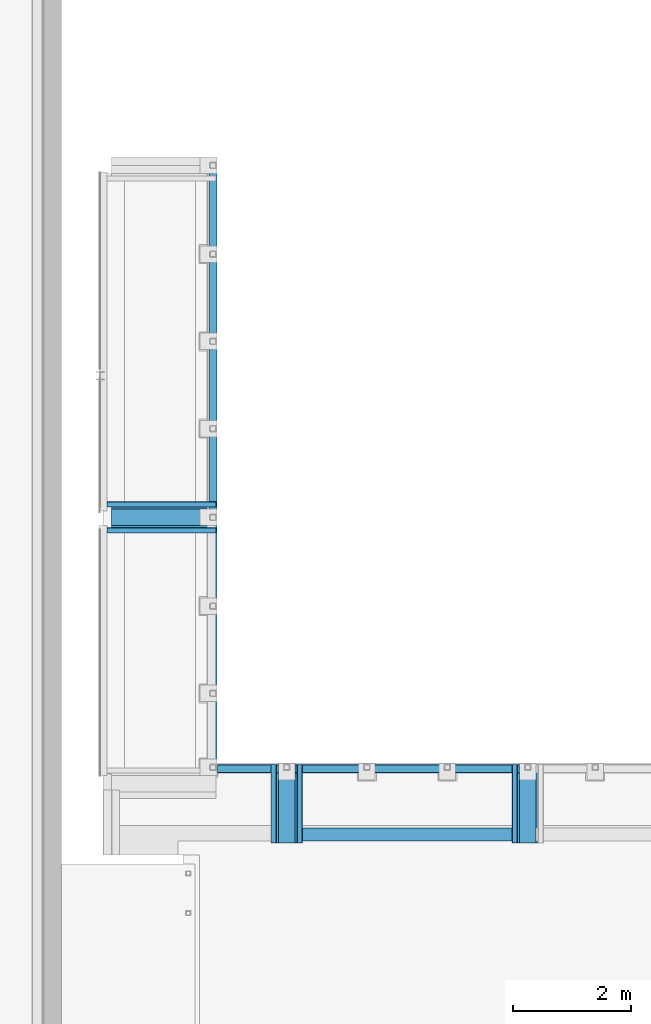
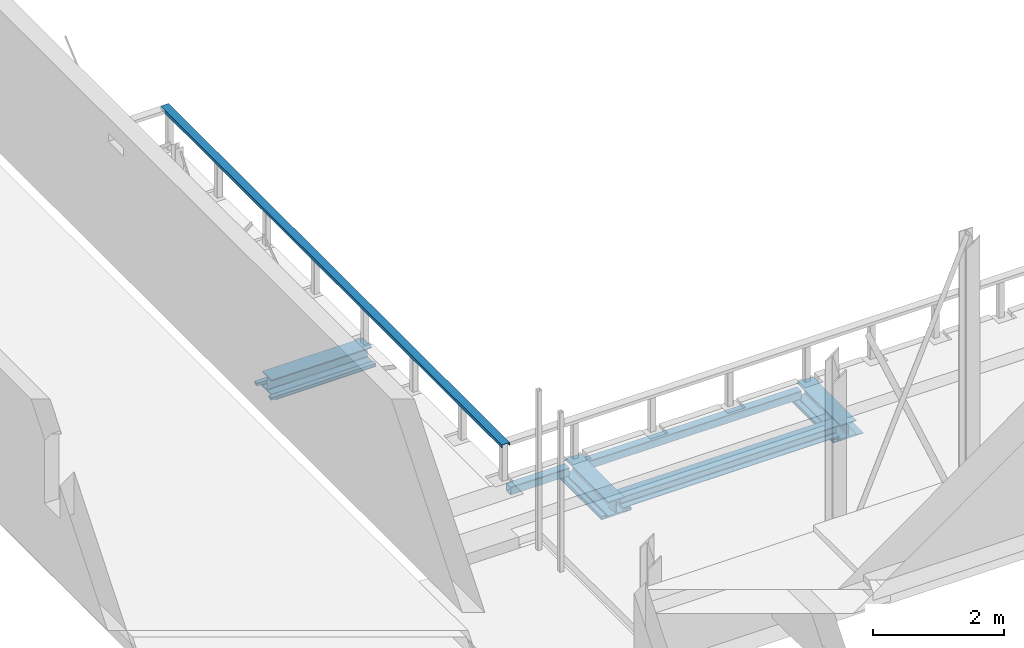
# One storey, part 15 of 68: 12 beams.
"""IFC2X3 building model written with IfcOpenShell, lengths in millimetres."""

from ifc_helpers import new_model, entity, si_unit, converted_unit, derived_unit, direction, frame, frame_2d, origin, origin_2d_with_axis, place, context, subcontext, project, spatial, polyline, circle_curve, parameter, trimmed, segment, composite_curve, rectangle, i_section, outline, extrude, source, transform, mapped, material, material_list, type_object, type_shapes, element, save


model = new_model("IFC2X3")

# Units and contexts
model_context = context("Model", 3, precision=0.01, world=origin(), true_north=direction((6.12303176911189e-17, 1.0)))
body_context = subcontext(model_context, "Body", "Model", "MODEL_VIEW")
ifc_project = project(units=[si_unit("LENGTHUNIT", "METRE", prefix="MILLI"), si_unit("AREAUNIT", "SQUARE_METRE", prefix="MILLI"), si_unit("VOLUMEUNIT", "CUBIC_METRE"), converted_unit("PLANEANGLEUNIT", "DEGREE", entity("IfcRatioMeasure", 0.0174532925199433), si_unit("PLANEANGLEUNIT", "RADIAN"), dimensions=[0, 0, 0, 0, 0, 0, 0]), si_unit("MASSUNIT", "GRAM", prefix="KILO"), derived_unit("MASSDENSITYUNIT", [(si_unit("MASSUNIT", "GRAM", prefix="KILO"), 1), (si_unit("LENGTHUNIT", "METRE"), -3)]), derived_unit("MOMENTOFINERTIAUNIT", [(si_unit("LENGTHUNIT", "METRE"), 4)]), si_unit("TIMEUNIT", "SECOND"), si_unit("FREQUENCYUNIT", "HERTZ"), si_unit("THERMODYNAMICTEMPERATUREUNIT", "DEGREE_CELSIUS"), derived_unit("THERMALTRANSMITTANCEUNIT", [(si_unit("MASSUNIT", "GRAM", prefix="KILO"), 1), (si_unit("THERMODYNAMICTEMPERATUREUNIT", "KELVIN"), -1), (si_unit("TIMEUNIT", "SECOND"), -3)]), derived_unit("VOLUMETRICFLOWRATEUNIT", [(si_unit("LENGTHUNIT", "METRE"), 3), (si_unit("TIMEUNIT", "SECOND"), -1)]), si_unit("ELECTRICCURRENTUNIT", "AMPERE"), si_unit("ELECTRICVOLTAGEUNIT", "VOLT"), si_unit("POWERUNIT", "WATT"), si_unit("FORCEUNIT", "NEWTON", prefix="KILO"), si_unit("ILLUMINANCEUNIT", "LUX"), si_unit("LUMINOUSFLUXUNIT", "LUMEN"), si_unit("LUMINOUSINTENSITYUNIT", "CANDELA"), derived_unit("USERDEFINED", [(si_unit("MASSUNIT", "GRAM", prefix="KILO"), -1), (si_unit("LENGTHUNIT", "METRE"), -2), (si_unit("TIMEUNIT", "SECOND"), 3), (si_unit("LUMINOUSFLUXUNIT", "LUMEN"), 1)]), derived_unit("LINEARVELOCITYUNIT", [(si_unit("LENGTHUNIT", "METRE"), 1), (si_unit("TIMEUNIT", "SECOND"), -1)]), si_unit("PRESSUREUNIT", "PASCAL"), derived_unit("USERDEFINED", [(si_unit("LENGTHUNIT", "METRE"), -2), (si_unit("MASSUNIT", "GRAM", prefix="KILO"), 1), (si_unit("TIMEUNIT", "SECOND"), -2)]), derived_unit("LINEARFORCEUNIT", [(si_unit("MASSUNIT", "GRAM", prefix="KILO"), 1), (si_unit("LENGTHUNIT", "METRE"), 1), (si_unit("TIMEUNIT", "SECOND"), -2), (si_unit("LENGTHUNIT", "METRE"), -1)]), derived_unit("PLANARFORCEUNIT", [(si_unit("MASSUNIT", "GRAM", prefix="KILO"), 1), (si_unit("LENGTHUNIT", "METRE"), 1), (si_unit("TIMEUNIT", "SECOND"), -2), (si_unit("LENGTHUNIT", "METRE"), -2)])], contexts=[model_context])

# Site, building, storey
site_placement = place(None, origin())
site = spatial("IfcSite", under=ifc_project, at=site_placement, Name="Theater aan de Parade", CompositionType="ELEMENT")
building_placement = place(site_placement, origin())
building = spatial("IfcBuilding", under=site, at=building_placement, Name="Theater aan de Parade", CompositionType="ELEMENT")
storey_placement = place(building_placement, frame((0.0, 0.0, 8750.0)))
storey = spatial("IfcBuildingStorey", under=building, at=storey_placement, Name="02 tweede verdieping", CompositionType="ELEMENT", Elevation=8750.0)

# Beams
ifc_material_1 = material(Name="00_PBT_MAT_staal_S355")
ifc_material_2 = material(Name="00_PBT_MAT_Lucht")
ifc_material_list_1 = material_list([ifc_material_1, ifc_material_2])
beam_type_1 = type_object("IfcBeamType", Name="28_PBT_SF_staal_H-profiel_met_onderplaat (void):S355_HE280B + onderplaat d=12", PredefinedType="BEAM", material=ifc_material_list_1)
shared_shape_1 = source(origin(), body_context, "Body", "SweptSolid", [
    extrude(rectangle(XDim=12.0, YDim=530.0, at=frame_2d((0.0, -2.8421709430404e-14), x_axis=(1.0, 0.0))), frame((-858.5, 0.0, -146.0), z_axis=(1.0, 0.0, 0.0), x_axis=(0.0, 0.0, -1.0)), (0.0, 0.0, 1.0), 1766.99999999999),
    extrude(i_section(OverallWidth=280.0, OverallDepth=280.0, WebThickness=10.5, FlangeThickness=17.9999999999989, FilletRadius=24.0, at=frame_2d((-3.97903932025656e-13, 0.0), x_axis=(0.0, 1.0))), frame((-858.5, 0.0, 0.0), z_axis=(1.0, 0.0, 0.0), x_axis=(0.0, 0.0, -1.0)), (0.0, 0.0, 1.0), 1766.99999999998),
])
type_shapes(beam_type_1, [shared_shape_1])
beam_1_placement = place(storey_placement, frame((17052.3570032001, 23568.2922985, -210.0)))
element("IfcBeam", 1, at=beam_1_placement, inside=storey, type_object=beam_type_1, material=ifc_material_1, Name="28_PBT_SF_staal_H-profiel_met_onderplaat (void):S355_HE280B + onderplaat d=12", ObjectType="28_PBT_SF_staal_H-profiel_met_onderplaat (void):S355_HE280B + onderplaat d=12", context=body_context, shape_type="MappedRepresentation", body=[
    mapped(shared_shape_1, transform((0.0, 0.0, 0.0), scale=1.0)),
])
ifc_material_list_2 = material_list([ifc_material_2, ifc_material_1])
beam_type_2 = type_object("IfcBeamType", Name="28_PBT_SF_staal_H-profiel_met_onderplaat (void):S355_HE280B + onderplaat d=12", PredefinedType="BEAM", material=ifc_material_list_2)
shared_shape_2 = source(origin(), body_context, "Body", "SweptSolid", [
    extrude(rectangle(XDim=12.0, YDim=530.0, at=origin_2d_with_axis()), frame((-663.501290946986, 0.0, -146.0), z_axis=(1.0, 0.0, 0.0), x_axis=(0.0, 0.0, -1.0)), (0.0, 0.0, 1.0), 1327.00258189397),
    extrude(outline(composite_curve([segment(polyline([(122.0, -140.0), (140.0, -140.0)]), True, "CONTINUOUS"), segment(polyline([(140.0, -140.0), (140.0, 140.0)]), True, "CONTINUOUS"), segment(polyline([(140.0, 140.0), (122.0, 140.0)]), True, "CONTINUOUS"), segment(polyline([(122.0, 140.0), (122.0, 29.25)]), True, "CONTINUOUS"), segment(trimmed(circle_curve(frame_2d((98.0, 29.25), x_axis=(1.0, 0.0)), 24.0), [parameter(270.0)], [parameter(0.0)], True, "PARAMETER"), False, "CONTINUOUS"), segment(polyline([(98.0, 5.24999999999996), (-98.0, 5.24999999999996)]), True, "CONTINUOUS"), segment(trimmed(circle_curve(frame_2d((-98.0, 29.25), x_axis=(0.0, -1.0)), 24.0), [parameter(270.0)], [parameter(0.0)], True, "PARAMETER"), False, "CONTINUOUS"), segment(polyline([(-122.0, 29.25), (-122.0, 140.0)]), True, "CONTINUOUS"), segment(polyline([(-122.0, 140.0), (-140.0, 140.0)]), True, "CONTINUOUS"), segment(polyline([(-140.0, 140.0), (-140.0, -140.0)]), True, "CONTINUOUS"), segment(polyline([(-140.0, -140.0), (-122.0, -140.0)]), True, "CONTINUOUS"), segment(polyline([(-122.0, -140.0), (-122.0, -29.25)]), True, "CONTINUOUS"), segment(trimmed(circle_curve(frame_2d((-98.0, -29.25), x_axis=(-1.0, 0.0)), 24.0), [parameter(270.0)], [parameter(0.0)], True, "PARAMETER"), False, "CONTINUOUS"), segment(polyline([(-98.0, -5.25000000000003), (98.0, -5.25000000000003)]), True, "CONTINUOUS"), segment(trimmed(circle_curve(frame_2d((98.0, -29.25), x_axis=(0.0, 1.0)), 24.0), [parameter(270.0)], [parameter(0.0)], True, "PARAMETER"), False, "CONTINUOUS"), segment(polyline([(122.0, -29.25), (122.0, -140.0)]), True, "CONTINUOUS")], self_intersect=False)), frame((-663.50129094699, 0.0, 0.0), z_axis=(1.0, 0.0, 0.0), x_axis=(0.0, 0.0, -1.0)), (0.0, 0.0, 1.0), 1327.00258189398),
])
type_shapes(beam_type_2, [shared_shape_2])
for number, where, z_axis, x_axis in (
    (2, (19156.8570058, 18729.807155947, -210.0), (0.0, 0.0, 1.0), (0.0, 1.0, 0.0)),
    (3, (23232.8581798, 18729.8071559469, -210.0), (0.0, 0.0, 1.0), (0.0, 1.0, 0.0)),
):
    element("IfcBeam", number, at=place(storey_placement, frame(where, z_axis=z_axis, x_axis=x_axis)), inside=storey, type_object=beam_type_2, material=ifc_material_1, Name="28_PBT_SF_staal_H-profiel_met_onderplaat (void):S355_HE280B + onderplaat d=12", ObjectType="28_PBT_SF_staal_H-profiel_met_onderplaat (void):S355_HE280B + onderplaat d=12", context=body_context, shape_type="MappedRepresentation", body=[
        mapped(shared_shape_2, transform((0.0, 0.0, 0.0), scale=1.0)),
    ])
beam_type_3 = type_object("IfcBeamType", Name="28_PBT_SF_staal_koker:S355_K150x150x10", PredefinedType="NOTDEFINED")
beam_2_placement = place(storey_placement, frame((17983.8570032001, 19318.308446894, 0.0)))
element("IfcBeam", 4, at=beam_2_placement, inside=storey, type_object=beam_type_3, material=ifc_material_1, Name="28_PBT_SF_staal_koker:S355_K150x150x10", ObjectType="28_PBT_SF_staal_koker:S355_K150x150x10", context=body_context, shape_type="SweptSolid", body=[
    extrude(outline(composite_curve([segment(polyline([(-60.0, -75.0), (60.0, -75.0)]), True, "CONTINUOUS"), segment(trimmed(circle_curve(frame_2d((60.0, -60.0), x_axis=(0.0, 1.0)), 15.0), [parameter(180.0)], [parameter(270.0)], True, "PARAMETER"), True, "CONTINUOUS"), segment(polyline([(75.0, -60.0), (75.0, 60.0)]), True, "CONTINUOUS"), segment(trimmed(circle_curve(frame_2d((60.0, 60.0), x_axis=(0.0, 1.0)), 15.0), [parameter(270.0)], [parameter(360.0)], True, "PARAMETER"), True, "CONTINUOUS"), segment(polyline([(60.0, 75.0), (-60.0, 75.0)]), True, "CONTINUOUS"), segment(trimmed(circle_curve(frame_2d((-60.0, 60.0), x_axis=(0.0, 1.0)), 15.0), [parameter(0.0)], [parameter(90.0000000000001)], True, "PARAMETER"), True, "CONTINUOUS"), segment(polyline([(-75.0, 60.0), (-75.0, -60.0)]), True, "CONTINUOUS"), segment(trimmed(circle_curve(frame_2d((-60.0, -60.0), x_axis=(0.0, 1.0)), 15.0), [parameter(90.0)], [parameter(180.0)], True, "PARAMETER"), True, "CONTINUOUS")], self_intersect=False), holes=[composite_curve([segment(polyline([(65.0, 55.0), (65.0, -55.0)]), True, "CONTINUOUS"), segment(trimmed(circle_curve(frame_2d((55.0, -55.0), x_axis=(0.0, 1.0)), 10.0), [parameter(180.0)], [parameter(270.0)], True, "PARAMETER"), False, "CONTINUOUS"), segment(polyline([(55.0, -65.0), (-55.0, -65.0)]), True, "CONTINUOUS"), segment(trimmed(circle_curve(frame_2d((-55.0, -55.0), x_axis=(0.0, 1.0)), 10.0), [parameter(90.0)], [parameter(180.0)], True, "PARAMETER"), False, "CONTINUOUS"), segment(polyline([(-65.0, -55.0), (-65.0, 55.0)]), True, "CONTINUOUS"), segment(trimmed(circle_curve(frame_2d((-55.0, 55.0), x_axis=(0.0, 1.0)), 10.0), [parameter(4.07110999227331e-13)], [parameter(90.0000000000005)], True, "PARAMETER"), False, "CONTINUOUS"), segment(polyline([(-55.0, 65.0), (55.0, 65.0)]), True, "CONTINUOUS"), segment(trimmed(circle_curve(frame_2d((55.0, 55.0), x_axis=(0.0, 1.0)), 10.0), [parameter(270.0)], [parameter(0.0)], True, "PARAMETER"), False, "CONTINUOUS")], self_intersect=False)]), frame((0.0, 0.0, -225.0), z_axis=(1.0, 0.0, 0.0), x_axis=(0.0, 0.0, 1.0)), (0.0, 0.0, 1.0), 1033.00000259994),
])
beam_3_placement = place(storey_placement, frame((23092.8581798, 19318.308446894, 0.0), z_axis=(0.0, 0.0, 1.0), x_axis=(-1.0, 0.0, 0.0)))
element("IfcBeam", 5, at=beam_3_placement, inside=storey, type_object=beam_type_3, material=ifc_material_1, Name="28_PBT_SF_staal_koker:S355_K150x150x10", ObjectType="28_PBT_SF_staal_koker:S355_K150x150x10", context=body_context, shape_type="SweptSolid", body=[
    extrude(outline(composite_curve([segment(trimmed(circle_curve(frame_2d((-60.0, -60.0), x_axis=(1.0, 0.0)), 15.0), [parameter(180.0)], [parameter(270.0)], True, "PARAMETER"), True, "CONTINUOUS"), segment(polyline([(-60.0, -75.0), (60.0, -75.0)]), True, "CONTINUOUS"), segment(trimmed(circle_curve(frame_2d((60.0, -60.0), x_axis=(1.0, 0.0)), 15.0), [parameter(270.0)], [parameter(0.0)], True, "PARAMETER"), True, "CONTINUOUS"), segment(polyline([(75.0, -60.0), (75.0, 60.0)]), True, "CONTINUOUS"), segment(trimmed(circle_curve(frame_2d((60.0, 60.0), x_axis=(1.0, 0.0)), 15.0), [parameter(3.56222124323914e-13)], [parameter(90.0000000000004)], True, "PARAMETER"), True, "CONTINUOUS"), segment(polyline([(60.0, 75.0), (-60.0, 75.0)]), True, "CONTINUOUS"), segment(trimmed(circle_curve(frame_2d((-60.0, 60.0), x_axis=(1.0, 0.0)), 15.0), [parameter(90.0)], [parameter(180.0)], True, "PARAMETER"), True, "CONTINUOUS"), segment(polyline([(-75.0, 60.0), (-75.0, -60.0)]), True, "CONTINUOUS")], self_intersect=False), holes=[composite_curve([segment(trimmed(circle_curve(frame_2d((55.0, 55.0), x_axis=(1.0, 0.0)), 10.0), [parameter(0.0)], [parameter(90.0000000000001)], True, "PARAMETER"), False, "CONTINUOUS"), segment(polyline([(65.0, 55.0), (65.0, -55.0)]), True, "CONTINUOUS"), segment(trimmed(circle_curve(frame_2d((55.0, -55.0), x_axis=(1.0, 0.0)), 10.0), [parameter(269.999999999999)], [parameter(360.0)], True, "PARAMETER"), False, "CONTINUOUS"), segment(polyline([(55.0, -65.0), (-55.0, -65.0)]), True, "CONTINUOUS"), segment(trimmed(circle_curve(frame_2d((-55.0, -55.0), x_axis=(1.0, 0.0)), 10.0), [parameter(180.0)], [parameter(270.0)], True, "PARAMETER"), False, "CONTINUOUS"), segment(polyline([(-65.0, -55.0), (-65.0, 55.0)]), True, "CONTINUOUS"), segment(trimmed(circle_curve(frame_2d((-55.0, 55.0), x_axis=(1.0, 0.0)), 10.0), [parameter(89.9999999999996)], [parameter(180.0)], True, "PARAMETER"), False, "CONTINUOUS"), segment(polyline([(-55.0, 65.0), (55.0, 65.0)]), True, "CONTINUOUS")], self_intersect=False)]), frame((0.0, 0.0, -225.0), z_axis=(1.0, 0.0, 0.0), x_axis=(0.0, 1.0, 0.0)), (0.0, 0.0, 1.0), 3796.001174),
])
beam_type_4 = type_object("IfcBeamType", Name="28_PBT_SF_staal_H-profiel:S355_HE220A", PredefinedType="NOTDEFINED")
beam_4_placement = place(storey_placement, frame((19296.8570058, 18206.305865, 0.0)))
element("IfcBeam", 6, at=beam_4_placement, inside=storey, type_object=beam_type_4, material=ifc_material_1, Name="28_PBT_SF_staal_H-profiel:S355_HE220A", ObjectType="28_PBT_SF_staal_H-profiel:S355_HE220A", context=body_context, shape_type="SweptSolid", body=[
    extrude(i_section(OverallWidth=219.999999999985, OverallDepth=210.0, WebThickness=7.00000000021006, FlangeThickness=10.9999999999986, FilletRadius=18.0000000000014, at=frame_2d((-2.16715534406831e-12, 1.08713038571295e-12), x_axis=(0.0, 1.0))), frame((0.0, 0.0, -195.0), z_axis=(1.0, 0.0, 0.0), x_axis=(0.0, 0.0, -1.0)), (0.0, 0.0, 1.0), 3796.001174),
])
beam_type_5 = type_object("IfcBeamType", Name="28_PBT_SF_staal_UNP-profiel:S355_UNP140", PredefinedType="NOTDEFINED")
beam_5_placement = place(storey_placement, frame((17910.8570032, 19273.30672969, 0.0), z_axis=(0.0, 0.0, 1.0), x_axis=(0.0, 1.0, 0.0)))
element("IfcBeam", 7, at=beam_5_placement, inside=storey, type_object=beam_type_5, material=ifc_material_1, Name="28_PBT_SF_staal_UNP-profiel:S355_UNP140", ObjectType="28_PBT_SF_staal_UNP-profiel:S355_UNP140", context=body_context, shape_type="SweptSolid", body=[
    extrude(outline(composite_curve([segment(polyline([(-33.1002123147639, -70.0), (26.8997876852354, -70.0)]), True, "CONTINUOUS"), segment(polyline([(26.8997876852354, -70.0), (26.8997876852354, -67.0159744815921)]), True, "CONTINUOUS"), segment(trimmed(circle_curve(frame_2d((21.8997876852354, -67.0159744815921), x_axis=(1.0, 0.0)), 4.99999999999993), [parameter(0.0)], [parameter(85.4260787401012)], True, "PARAMETER"), True, "CONTINUOUS"), segment(polyline([(22.2985137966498, -62.0318980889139), (-16.8976645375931, -58.8962038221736)]), True, "CONTINUOUS"), segment(trimmed(circle_curve(frame_2d((-16.1002123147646, -48.9280510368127), x_axis=(-0.0797452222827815, -0.996815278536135)), 9.99999999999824), [parameter(274.573921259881)], [parameter(0.0)], True, "PARAMETER"), False, "CONTINUOUS"), segment(polyline([(-26.1002123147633, -48.9280510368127), (-26.1002123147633, 48.9280510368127)]), True, "CONTINUOUS"), segment(trimmed(circle_curve(frame_2d((-16.1002123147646, 48.9280510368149), x_axis=(-1.0, 0.0)), 9.99999999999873), [parameter(274.573921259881)], [parameter(0.0)], True, "PARAMETER"), False, "CONTINUOUS"), segment(polyline([(-16.8976645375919, 58.8962038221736), (22.2985137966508, 62.0318980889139)]), True, "CONTINUOUS"), segment(trimmed(circle_curve(frame_2d((21.8997876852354, 67.0159744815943), x_axis=(0.0797452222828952, -0.996815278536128)), 4.99999999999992), [parameter(0.0)], [parameter(85.4260787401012)], True, "PARAMETER"), True, "CONTINUOUS"), segment(polyline([(26.8997876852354, 67.0159744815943), (26.8997876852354, 70.0)]), True, "CONTINUOUS"), segment(polyline([(26.8997876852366, 70.0), (-33.1002123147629, 70.0)]), True, "CONTINUOUS"), segment(polyline([(-33.1002123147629, 70.0), (-33.1002123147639, -70.0)]), True, "CONTINUOUS")], self_intersect=False)), frame((0.0, 0.0, 636.899787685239), z_axis=(1.0, 0.0, 0.0), x_axis=(0.0, 0.0, -1.0)), (0.0, 0.0, 1.0), 10384.98556881),
])
ifc_material_3 = material(Name="00_PBT_MAT_staal_S235")
beam_type_6 = type_object("IfcBeamType", Name="28_PBT_SF_staal_koker:S235_K50x90x5", PredefinedType="NOTDEFINED")
beam_6_placement = place(storey_placement, frame((16053.8570032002, 23348.2922985, 0.0)))
element("IfcBeam", 8, at=beam_6_placement, inside=storey, type_object=beam_type_6, material=ifc_material_3, Name="28_PBT_SF_staal_koker:S235_K50x90x5", ObjectType="28_PBT_SF_staal_koker:S235_K50x90x5", context=body_context, shape_type="SweptSolid", body=[
    extrude(outline(composite_curve([segment(polyline([(-17.4999999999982, -45.0), (17.5000000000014, -45.0)]), True, "CONTINUOUS"), segment(trimmed(circle_curve(frame_2d((17.5000000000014, -37.5000000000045), x_axis=(0.0, 1.0)), 7.5), [parameter(180.0)], [parameter(270.0)], True, "PARAMETER"), True, "CONTINUOUS"), segment(polyline([(25.0, -37.5000000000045), (25.0, 37.4999999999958)]), True, "CONTINUOUS"), segment(trimmed(circle_curve(frame_2d((17.5000000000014, 37.4999999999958), x_axis=(0.0, 1.0)), 7.5), [parameter(270.0)], [parameter(360.0)], True, "PARAMETER"), True, "CONTINUOUS"), segment(polyline([(17.5000000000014, 45.0), (-17.4999999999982, 45.0)]), True, "CONTINUOUS"), segment(trimmed(circle_curve(frame_2d((-17.4999999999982, 37.4999999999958), x_axis=(0.0, 1.0)), 7.5), [parameter(0.0)], [parameter(90.0000000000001)], True, "PARAMETER"), True, "CONTINUOUS"), segment(polyline([(-25.0, 37.4999999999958), (-25.0, -37.5000000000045)]), True, "CONTINUOUS"), segment(trimmed(circle_curve(frame_2d((-17.4999999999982, -37.5000000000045), x_axis=(0.0, 1.0)), 7.5), [parameter(89.9999999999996)], [parameter(180.0)], True, "PARAMETER"), True, "CONTINUOUS")], self_intersect=False), holes=[composite_curve([segment(polyline([(20.0, 35.0), (20.0, -35.0)]), True, "CONTINUOUS"), segment(trimmed(circle_curve(frame_2d((15.0, -35.0), x_axis=(0.0, 1.0)), 5.0), [parameter(180.0)], [parameter(270.0)], True, "PARAMETER"), False, "CONTINUOUS"), segment(polyline([(15.0, -40.0), (-15.0, -40.0)]), True, "CONTINUOUS"), segment(trimmed(circle_curve(frame_2d((-15.0, -35.0), x_axis=(0.0, 1.0)), 5.0), [parameter(90.0000000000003)], [parameter(180.0)], True, "PARAMETER"), False, "CONTINUOUS"), segment(polyline([(-20.0, -35.0), (-20.0, 35.0)]), True, "CONTINUOUS"), segment(trimmed(circle_curve(frame_2d((-15.0, 35.0), x_axis=(0.0, 1.0)), 5.0), [parameter(3.56222124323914e-13)], [parameter(90.0000000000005)], True, "PARAMETER"), False, "CONTINUOUS"), segment(polyline([(-15.0, 40.0), (15.0, 40.0)]), True, "CONTINUOUS"), segment(trimmed(circle_curve(frame_2d((15.0, 35.0), x_axis=(0.0, 1.0)), 5.0), [parameter(270.0)], [parameter(5.08888749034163e-14)], True, "PARAMETER"), False, "CONTINUOUS")], self_intersect=False)]), frame((70.0, 0.0, -325.0), z_axis=(1.0, 0.0, 0.0), x_axis=(0.0, 0.0, 1.0)), (0.0, 0.0, 1.0), 1836.99999999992),
])
beam_7_placement = place(storey_placement, frame((16053.8570032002, 23788.2922985, 0.0)))
element("IfcBeam", 9, at=beam_7_placement, inside=storey, type_object=beam_type_6, material=ifc_material_3, Name="28_PBT_SF_staal_koker:S235_K50x90x5", ObjectType="28_PBT_SF_staal_koker:S235_K50x90x5", context=body_context, shape_type="SweptSolid", body=[
    extrude(outline(composite_curve([segment(trimmed(circle_curve(frame_2d((-37.5000000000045, -17.5000000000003), x_axis=(1.0, 0.0)), 7.5), [parameter(180.0)], [parameter(270.0)], True, "PARAMETER"), True, "CONTINUOUS"), segment(polyline([(-37.5000000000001, -25.0), (37.5000000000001, -25.0)]), True, "CONTINUOUS"), segment(trimmed(circle_curve(frame_2d((37.4999999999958, -17.5000000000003), x_axis=(1.0, 0.0)), 7.5), [parameter(270.0)], [parameter(0.0)], True, "PARAMETER"), True, "CONTINUOUS"), segment(polyline([(45.0, -17.5000000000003), (45.0, 17.4999999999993)]), True, "CONTINUOUS"), segment(trimmed(circle_curve(frame_2d((37.4999999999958, 17.4999999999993), x_axis=(1.0, 0.0)), 7.5), [parameter(3.56222124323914e-13)], [parameter(90.0000000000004)], True, "PARAMETER"), True, "CONTINUOUS"), segment(polyline([(37.5000000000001, 25.0), (-37.5000000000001, 25.0)]), True, "CONTINUOUS"), segment(trimmed(circle_curve(frame_2d((-37.5000000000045, 17.4999999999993), x_axis=(1.0, 0.0)), 7.5), [parameter(90.0000000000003)], [parameter(180.0)], True, "PARAMETER"), True, "CONTINUOUS"), segment(polyline([(-45.0, 17.4999999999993), (-45.0, -17.5000000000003)]), True, "CONTINUOUS")], self_intersect=False), holes=[composite_curve([segment(trimmed(circle_curve(frame_2d((35.0, 15.0), x_axis=(1.0, 0.0)), 5.0), [parameter(360.0)], [parameter(90.0000000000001)], True, "PARAMETER"), False, "CONTINUOUS"), segment(polyline([(40.0, 15.0), (40.0, -15.0)]), True, "CONTINUOUS"), segment(trimmed(circle_curve(frame_2d((35.0, -15.0), x_axis=(1.0, 0.0)), 5.0), [parameter(269.999999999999)], [parameter(360.0)], True, "PARAMETER"), False, "CONTINUOUS"), segment(polyline([(35.0, -20.0), (-35.0, -20.0)]), True, "CONTINUOUS"), segment(trimmed(circle_curve(frame_2d((-35.0, -15.0), x_axis=(1.0, 0.0)), 5.0), [parameter(180.0)], [parameter(270.0)], True, "PARAMETER"), False, "CONTINUOUS"), segment(polyline([(-40.0, -15.0), (-40.0, 15.0)]), True, "CONTINUOUS"), segment(trimmed(circle_curve(frame_2d((-35.0, 15.0), x_axis=(1.0, 0.0)), 5.0), [parameter(90.0)], [parameter(180.0)], True, "PARAMETER"), False, "CONTINUOUS"), segment(polyline([(-35.0, 20.0), (35.0, 20.0)]), True, "CONTINUOUS")], self_intersect=False)]), frame((70.0, 0.0, -325.0), z_axis=(1.0, 0.0, 0.0), x_axis=(0.0, 1.0, 0.0)), (0.0, 0.0, 1.0), 1836.99999999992),
])
beam_8_placement = place(storey_placement, frame((23012.8581798, 18067.305865, 0.0), z_axis=(0.0, 0.0, 1.0), x_axis=(0.0, 1.0, 0.0)))
element("IfcBeam", 10, at=beam_8_placement, inside=storey, type_object=beam_type_6, material=ifc_material_3, Name="28_PBT_SF_staal_koker:S235_K50x90x5", ObjectType="28_PBT_SF_staal_koker:S235_K50x90x5", context=body_context, shape_type="SweptSolid", body=[
    extrude(outline(composite_curve([segment(polyline([(-17.4999999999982, -45.0), (17.5000000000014, -45.0)]), True, "CONTINUOUS"), segment(trimmed(circle_curve(frame_2d((17.5000000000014, -37.5000000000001), x_axis=(0.0, 1.0)), 7.5), [parameter(180.0)], [parameter(270.0)], True, "PARAMETER"), True, "CONTINUOUS"), segment(polyline([(25.0, -37.5000000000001), (25.0, 37.5000000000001)]), True, "CONTINUOUS"), segment(trimmed(circle_curve(frame_2d((17.5000000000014, 37.5000000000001), x_axis=(0.0, 1.0)), 7.5), [parameter(270.0)], [parameter(360.0)], True, "PARAMETER"), True, "CONTINUOUS"), segment(polyline([(17.5000000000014, 45.0), (-17.4999999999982, 45.0)]), True, "CONTINUOUS"), segment(trimmed(circle_curve(frame_2d((-17.4999999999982, 37.5000000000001), x_axis=(0.0, 1.0)), 7.5), [parameter(0.0)], [parameter(90.0000000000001)], True, "PARAMETER"), True, "CONTINUOUS"), segment(polyline([(-25.0, 37.5000000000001), (-25.0, -37.5000000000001)]), True, "CONTINUOUS"), segment(trimmed(circle_curve(frame_2d((-17.4999999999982, -37.5000000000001), x_axis=(0.0, 1.0)), 7.5), [parameter(89.9999999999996)], [parameter(180.0)], True, "PARAMETER"), True, "CONTINUOUS")], self_intersect=False), holes=[composite_curve([segment(polyline([(20.0, 35.0), (20.0, -35.0)]), True, "CONTINUOUS"), segment(trimmed(circle_curve(frame_2d((15.0, -35.0), x_axis=(0.0, 1.0)), 5.0), [parameter(180.0)], [parameter(270.0)], True, "PARAMETER"), False, "CONTINUOUS"), segment(polyline([(15.0, -40.0), (-15.0, -40.0)]), True, "CONTINUOUS"), segment(trimmed(circle_curve(frame_2d((-15.0, -35.0), x_axis=(0.0, 1.0)), 5.0), [parameter(90.0000000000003)], [parameter(180.0)], True, "PARAMETER"), False, "CONTINUOUS"), segment(polyline([(-20.0, -35.0), (-20.0, 35.0)]), True, "CONTINUOUS"), segment(trimmed(circle_curve(frame_2d((-15.0, 35.0), x_axis=(0.0, 1.0)), 5.0), [parameter(3.56222124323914e-13)], [parameter(90.0000000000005)], True, "PARAMETER"), False, "CONTINUOUS"), segment(polyline([(-15.0, 40.0), (15.0, 40.0)]), True, "CONTINUOUS"), segment(trimmed(circle_curve(frame_2d((15.0, 35.0), x_axis=(0.0, 1.0)), 5.0), [parameter(270.0)], [parameter(5.08888749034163e-14)], True, "PARAMETER"), False, "CONTINUOUS")], self_intersect=False)]), frame((0.0, 0.0, -325.0), z_axis=(1.0, 0.0, 0.0), x_axis=(0.0, 0.0, 1.0)), (0.0, 0.0, 1.0), 1326.00258189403),
])
beam_9_placement = place(storey_placement, frame((18936.8570058, 18066.305865, 0.0), z_axis=(0.0, 0.0, 1.0), x_axis=(0.0, 1.0, 0.0)))
element("IfcBeam", 11, at=beam_9_placement, inside=storey, type_object=beam_type_6, material=ifc_material_3, Name="28_PBT_SF_staal_koker:S235_K50x90x5", ObjectType="28_PBT_SF_staal_koker:S235_K50x90x5", context=body_context, shape_type="SweptSolid", body=[
    extrude(outline(composite_curve([segment(polyline([(-17.4999999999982, -45.0), (17.5000000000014, -45.0)]), True, "CONTINUOUS"), segment(trimmed(circle_curve(frame_2d((17.5000000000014, -37.5000000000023), x_axis=(0.0, 1.0)), 7.5), [parameter(180.0)], [parameter(270.0)], True, "PARAMETER"), True, "CONTINUOUS"), segment(polyline([(25.0, -37.5000000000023), (25.0, 37.499999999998)]), True, "CONTINUOUS"), segment(trimmed(circle_curve(frame_2d((17.5000000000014, 37.499999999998), x_axis=(0.0, 1.0)), 7.5), [parameter(270.0)], [parameter(360.0)], True, "PARAMETER"), True, "CONTINUOUS"), segment(polyline([(17.5000000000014, 45.0), (-17.4999999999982, 45.0)]), True, "CONTINUOUS"), segment(trimmed(circle_curve(frame_2d((-17.4999999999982, 37.499999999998), x_axis=(0.0, 1.0)), 7.5), [parameter(0.0)], [parameter(90.0000000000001)], True, "PARAMETER"), True, "CONTINUOUS"), segment(polyline([(-25.0, 37.499999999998), (-25.0, -37.5000000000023)]), True, "CONTINUOUS"), segment(trimmed(circle_curve(frame_2d((-17.4999999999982, -37.5000000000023), x_axis=(0.0, 1.0)), 7.5), [parameter(89.9999999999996)], [parameter(180.0)], True, "PARAMETER"), True, "CONTINUOUS")], self_intersect=False), holes=[composite_curve([segment(polyline([(20.0, 35.0), (20.0, -35.0)]), True, "CONTINUOUS"), segment(trimmed(circle_curve(frame_2d((15.0, -35.0), x_axis=(0.0, 1.0)), 5.0), [parameter(180.0)], [parameter(270.0)], True, "PARAMETER"), False, "CONTINUOUS"), segment(polyline([(15.0, -40.0), (-15.0, -40.0)]), True, "CONTINUOUS"), segment(trimmed(circle_curve(frame_2d((-15.0, -35.0), x_axis=(0.0, 1.0)), 5.0), [parameter(90.0000000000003)], [parameter(180.0)], True, "PARAMETER"), False, "CONTINUOUS"), segment(polyline([(-20.0, -35.0), (-20.0, 35.0)]), True, "CONTINUOUS"), segment(trimmed(circle_curve(frame_2d((-15.0, 35.0), x_axis=(0.0, 1.0)), 5.0), [parameter(3.56222124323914e-13)], [parameter(90.0000000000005)], True, "PARAMETER"), False, "CONTINUOUS"), segment(polyline([(-15.0, 40.0), (15.0, 40.0)]), True, "CONTINUOUS"), segment(trimmed(circle_curve(frame_2d((15.0, 35.0), x_axis=(0.0, 1.0)), 5.0), [parameter(270.0)], [parameter(5.08888749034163e-14)], True, "PARAMETER"), False, "CONTINUOUS")], self_intersect=False)]), frame((0.0, 0.0, -325.0), z_axis=(1.0, 0.0, 0.0), x_axis=(0.0, 0.0, 1.0)), (0.0, 0.0, 1.0), 1327.002581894),
])
beam_10_placement = place(storey_placement, frame((19376.8570057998, 18066.305865, 0.0), z_axis=(0.0, 0.0, 1.0), x_axis=(0.0, 1.0, 0.0)))
element("IfcBeam", 12, at=beam_10_placement, inside=storey, type_object=beam_type_6, material=ifc_material_3, Name="28_PBT_SF_staal_koker:S235_K50x90x5", ObjectType="28_PBT_SF_staal_koker:S235_K50x90x5", context=body_context, shape_type="SweptSolid", body=[
    extrude(outline(composite_curve([segment(trimmed(circle_curve(frame_2d((-37.5000000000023, -17.5000000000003), x_axis=(1.0, 0.0)), 7.5), [parameter(180.0)], [parameter(270.0)], True, "PARAMETER"), True, "CONTINUOUS"), segment(polyline([(-37.5000000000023, -25.0), (37.499999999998, -25.0)]), True, "CONTINUOUS"), segment(trimmed(circle_curve(frame_2d((37.499999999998, -17.5000000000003), x_axis=(1.0, 0.0)), 7.5), [parameter(270.0)], [parameter(0.0)], True, "PARAMETER"), True, "CONTINUOUS"), segment(polyline([(45.0, -17.5000000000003), (45.0, 17.4999999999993)]), True, "CONTINUOUS"), segment(trimmed(circle_curve(frame_2d((37.499999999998, 17.4999999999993), x_axis=(1.0, 0.0)), 7.5), [parameter(3.56222124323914e-13)], [parameter(90.0000000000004)], True, "PARAMETER"), True, "CONTINUOUS"), segment(polyline([(37.499999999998, 25.0), (-37.5000000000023, 25.0)]), True, "CONTINUOUS"), segment(trimmed(circle_curve(frame_2d((-37.5000000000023, 17.4999999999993), x_axis=(1.0, 0.0)), 7.5), [parameter(90.0000000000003)], [parameter(180.0)], True, "PARAMETER"), True, "CONTINUOUS"), segment(polyline([(-45.0, 17.4999999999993), (-45.0, -17.5000000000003)]), True, "CONTINUOUS")], self_intersect=False), holes=[composite_curve([segment(trimmed(circle_curve(frame_2d((35.0, 15.0), x_axis=(1.0, 0.0)), 5.0), [parameter(360.0)], [parameter(90.0000000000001)], True, "PARAMETER"), False, "CONTINUOUS"), segment(polyline([(40.0, 15.0), (40.0, -15.0)]), True, "CONTINUOUS"), segment(trimmed(circle_curve(frame_2d((35.0, -15.0), x_axis=(1.0, 0.0)), 5.0), [parameter(269.999999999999)], [parameter(360.0)], True, "PARAMETER"), False, "CONTINUOUS"), segment(polyline([(35.0, -20.0), (-35.0, -20.0)]), True, "CONTINUOUS"), segment(trimmed(circle_curve(frame_2d((-35.0, -15.0), x_axis=(1.0, 0.0)), 5.0), [parameter(180.0)], [parameter(270.0)], True, "PARAMETER"), False, "CONTINUOUS"), segment(polyline([(-40.0, -15.0), (-40.0, 15.0)]), True, "CONTINUOUS"), segment(trimmed(circle_curve(frame_2d((-35.0, 15.0), x_axis=(1.0, 0.0)), 5.0), [parameter(90.0)], [parameter(180.0)], True, "PARAMETER"), False, "CONTINUOUS"), segment(polyline([(-35.0, 20.0), (35.0, 20.0)]), True, "CONTINUOUS")], self_intersect=False)]), frame((0.0, 0.0, -325.0), z_axis=(1.0, 0.0, 0.0), x_axis=(0.0, 1.0, 0.0)), (0.0, 0.0, 1.0), 1327.00258189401),
])

save(model, "model.ifc")
